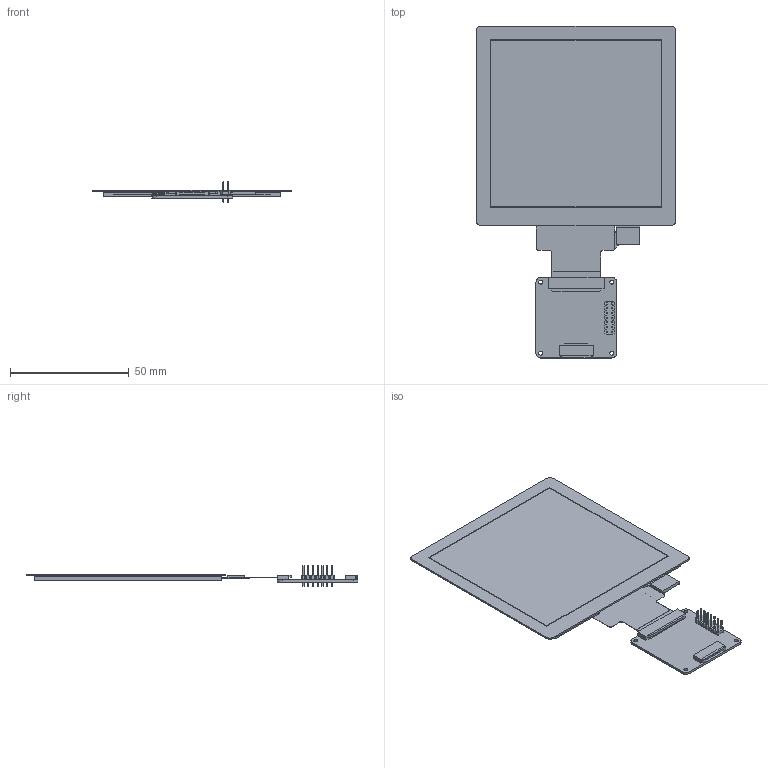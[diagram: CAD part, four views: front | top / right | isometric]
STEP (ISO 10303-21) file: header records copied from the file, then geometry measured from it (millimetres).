
FILE_DESCRIPTION((''),'2;1');
FILE_NAME('TS040WVS02CP-B1617A-V00-241213','2024-12-13T17:58:47',('Shaozi'),(''),'CREO PARAMETRIC BY PTC INC, 2024063','CREO PARAMETRIC BY PTC INC, 2024063','');
FILE_SCHEMA(('AUTOMOTIVE_DESIGN { 1 0 10303 214 1 1 1 1 }'));
Length unit declared in the file: millimetre
Products named in the file (1): TS040WVS02CP-B1617A-V00-241213
Bounding box: 84 x 139.94 x 8.8 mm (x, y, z)
Surface area: 26496.9 mm2 (no closed solid volume)
Topology: 0 solids, 22 shells, 348 faces, 1035 edges, 722 vertices
Faces by surface type: plane 316, cylinder 32
Entity records: 13354 total; most frequent: CARTESIAN_POINT 2105, ORIENTED_EDGE 1832, DIRECTION 1803, EDGE_CURVE 1035, VECTOR 963, LINE 963, VERTEX_POINT 722, AXIS2_PLACEMENT_3D 420
